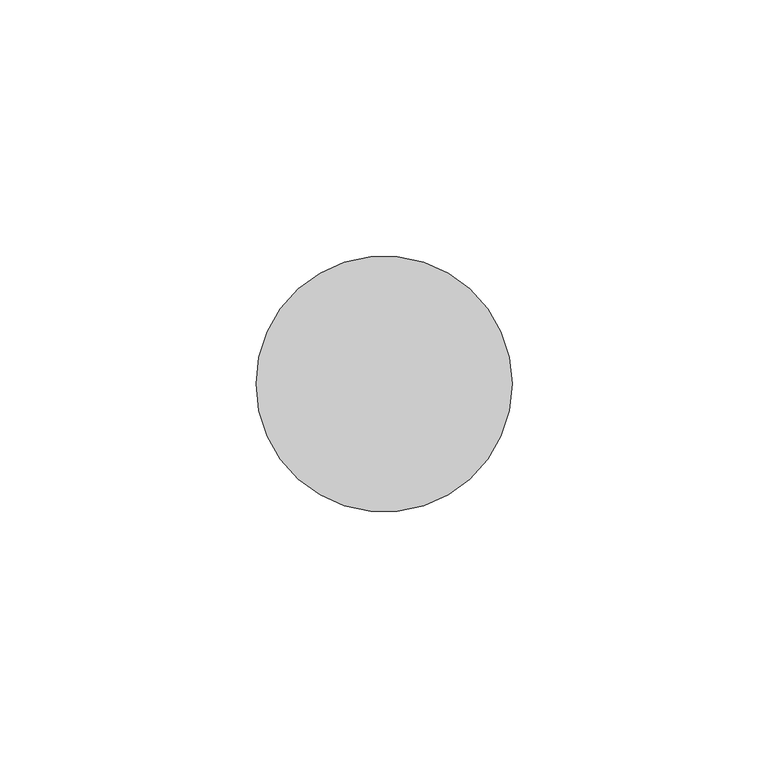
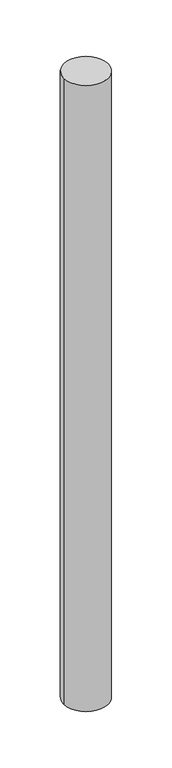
"""IFC4 building model written with IfcOpenShell, lengths in millimetres: member geometry, 圆形竖梃 : 25mm 半径."""

from ifc_helpers import new_model, si_unit, point, frame, frame_2d, origin, place, context, project, spatial, circle_curve, trimmed, segment, composite_curve, outline, extrude, source, transform, mapped, element, save


def member_844fc7d1(model_context):
    return source(origin(), model_context, "Body", "SweptSolid", [
        extrude(outline(composite_curve([segment(trimmed(circle_curve(frame_2d((-25.0, 0.0)), 25.0), [point((0.0, 0.0))], [point((-50.0, 0.0))], False, "CARTESIAN"), True, "CONTINUOUS"), segment(trimmed(circle_curve(frame_2d((-25.0, 0.0)), 25.0), [point((-50.0, 0.0))], [point((0.0, 0.0))], False, "CARTESIAN"), True, "CONTINUOUS")], self_intersect=False)), frame((0.0, 0.0, -748.5281374), z_axis=(0.0, 0.0, 1.0), x_axis=(1.0, 0.0, 0.0)), (0.0, 0.0, 1.0), 748.5281374),
    ])


if __name__ == "__main__":
    model = new_model("IFC4")
    model_context = context("Model", 3, world=origin())
    ifc_project = project(units=[si_unit("LENGTHUNIT", "METRE", prefix="MILLI")], contexts=[model_context])
    site = spatial("IfcSite", under=ifc_project)
    building = spatial("IfcBuilding", under=site)
    placement = place(None, origin())
    member_shape = member_844fc7d1(model_context)
    element("IfcMember", 1, ObjectType="圆形竖梃 : 25mm 半径", at=placement, inside=building, context=model_context, shape_type="MappedRepresentation", body=[
        mapped(member_shape, transform((0.0, 0.0, 0.0), x_axis=(1.0, 0.0, 0.0), y_axis=(0.0, 1.0, 0.0), z_axis=(0.0, 0.0, 1.0))),
    ])
    save(model, "model.ifc")
